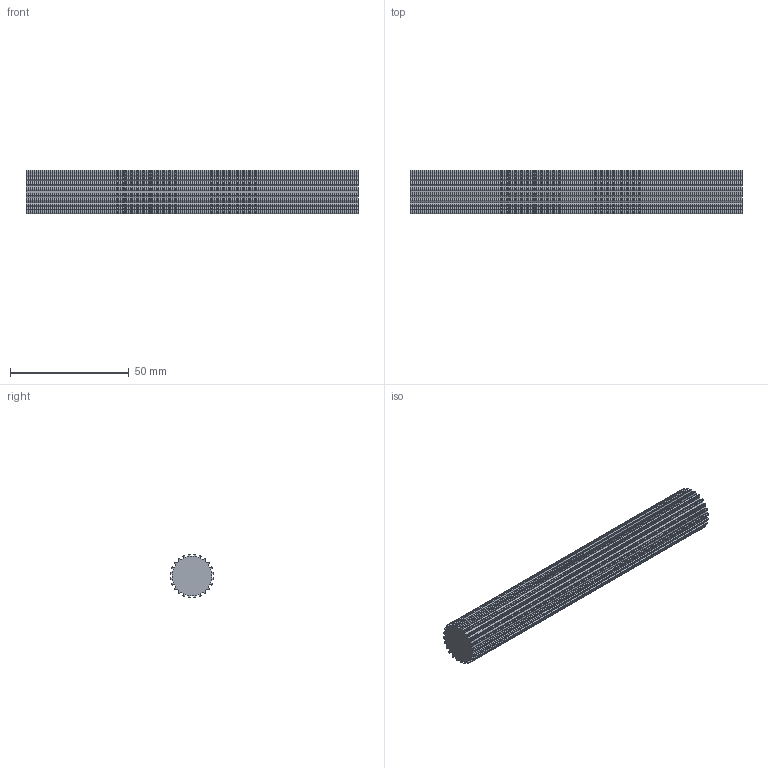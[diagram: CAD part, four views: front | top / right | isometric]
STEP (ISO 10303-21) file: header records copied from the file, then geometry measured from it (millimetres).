
FILE_DESCRIPTION( ( 'STEP AP214' ), '1' );
FILE_NAME( 'C:/Users/StangenbergN/Documents/CAD_Step/1/16092400.stp', '2019-07-25T19:41:22', ( '' ), ( '' ), ' ', 'PARTsolutions', ' ' );
FILE_SCHEMA( ( 'AUTOMOTIVE_DESIGN { 1 0 10303 214 1 1 1 1 }' ) );
Length unit declared in the file: millimetre
Products named in the file (1): _16092400
Bounding box: 140 x 18.46 x 18.46 mm (x, y, z)
Volume: 33049.5 mm3; surface area: 12411.5 mm2
Topology: 1 solids, 1 shells, 194 faces, 576 edges, 384 vertices
Faces by surface type: cylinder 120, plane 74
Entity records: 8168 total; most frequent: DIRECTION 1206, CARTESIAN_POINT 1155, ORIENTED_EDGE 1152, EDGE_CURVE 576, AXIS2_PLACEMENT_3D 435, VERTEX_POINT 384, LINE 336, VECTOR 336
